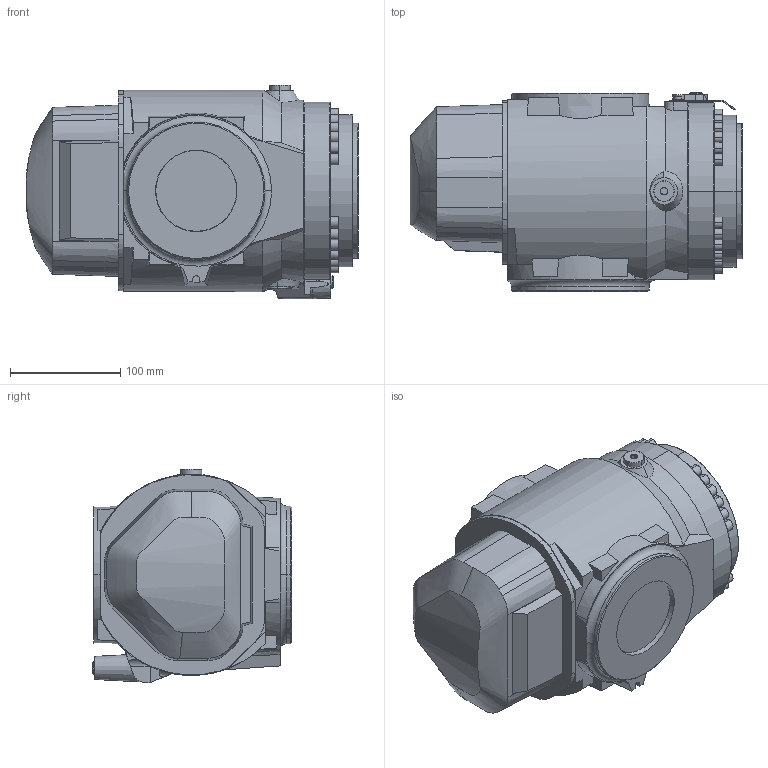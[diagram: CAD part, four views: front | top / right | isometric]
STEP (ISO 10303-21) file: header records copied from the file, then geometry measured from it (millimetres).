
FILE_DESCRIPTION (( 'STEP AP214' ), '1' );
FILE_NAME ('IRB6710_200kg-295_OC_00_LINK05_CAD.STEP', '2023-03-27T19:25:49', ( '' ), ( '' ), 'SwSTEP 2.0', 'SolidWorks 2020', '' );
FILE_SCHEMA (( 'AUTOMOTIVE_DESIGN' ));
Length unit declared in the file: millimetre
Products named in the file (1): IRB6710_200kg-295_OC_00_LINK05_CAD
Bounding box: 301.69 x 181 x 194.1 mm (x, y, z)
Volume: 6415701.7 mm3; surface area: 232286.1 mm2
Topology: 1 solids, 1 shells, 468 faces, 1215 edges, 774 vertices
Faces by surface type: plane 232, cylinder 119, cone 78, bspline 27, torus 12
Entity records: 17663 total; most frequent: CARTESIAN_POINT 6295, ORIENTED_EDGE 2422, DIRECTION 2318, EDGE_CURVE 1211, AXIS2_PLACEMENT_3D 875, VERTEX_POINT 774, VECTOR 568, LINE 568
